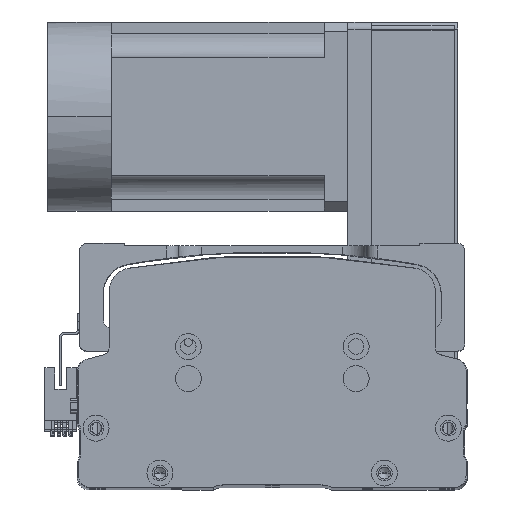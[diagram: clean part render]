
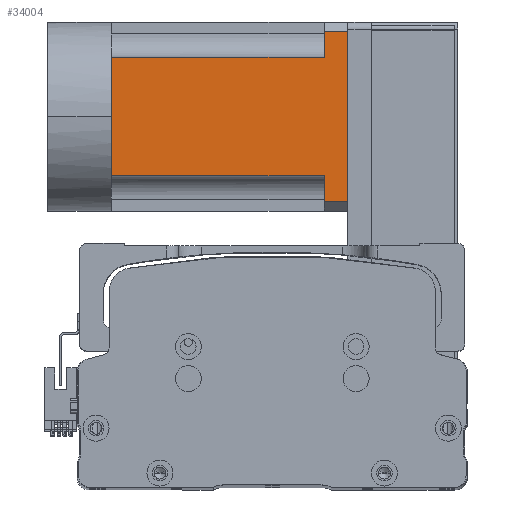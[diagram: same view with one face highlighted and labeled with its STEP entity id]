
A CAD part, top view. The second image highlights one B-rep face of the part: STEP entity #34004.
In plain terms, the highlighted planar face has unit normal (0, 0, 1) as drawn and (0, 0, -1) by its records, which use the part's own axes.
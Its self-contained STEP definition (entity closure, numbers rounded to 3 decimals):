
#206 = VECTOR ( 'NONE', #38847, 1000. ) ;
#1397 = CARTESIAN_POINT ( 'NONE',  ( -25., -27., -40. ) ) ;
#3003 = EDGE_CURVE ( 'NONE', #57980, #45392, #6251, .T. ) ;
#3538 = LINE ( 'NONE', #59423, #38428 ) ;
#4414 = ORIENTED_EDGE ( 'NONE', *, *, #35775, .T. ) ;
#4518 = EDGE_CURVE ( 'NONE', #12688, #52060, #32043, .T. ) ;
#5258 = ORIENTED_EDGE ( 'NONE', *, *, #13453, .F. ) ;
#5966 = VECTOR ( 'NONE', #25059, 1000. ) ;
#6251 = LINE ( 'NONE', #34591, #17341 ) ;
#6672 = CARTESIAN_POINT ( 'NONE',  ( -40., 90., -40. ) ) ;
#7397 = VECTOR ( 'NONE', #25042, 1000. ) ;
#7656 = VECTOR ( 'NONE', #13351, 1000. ) ;
#9502 = PLANE ( 'NONE',  #19207 ) ;
#10346 = DIRECTION ( 'NONE',  ( -1., 0., 0. ) ) ;
#10353 = VERTEX_POINT ( 'NONE', #28504 ) ;
#11016 = CARTESIAN_POINT ( 'NONE',  ( 0., 0., -40. ) ) ;
#12688 = VERTEX_POINT ( 'NONE', #35060 ) ;
#13351 = DIRECTION ( 'NONE',  ( -1., 0., 0. ) ) ;
#13453 = EDGE_CURVE ( 'NONE', #10353, #38441, #23281, .T. ) ;
#13584 = EDGE_CURVE ( 'NONE', #42363, #51325, #38036, .T. ) ;
#14987 = DIRECTION ( 'NONE',  ( 0., -1., 0. ) ) ;
#17341 = VECTOR ( 'NONE', #44109, 1000. ) ;
#18574 = LINE ( 'NONE', #1397, #5966 ) ;
#19040 = DIRECTION ( 'NONE',  ( -1., 0., 0. ) ) ;
#19207 = AXIS2_PLACEMENT_3D ( 'NONE', #37887, #47417, #19040 ) ;
#19485 = VECTOR ( 'NONE', #39799, 1000. ) ;
#19591 = FACE_OUTER_BOUND ( 'NONE', #52196, .T. ) ;
#20829 = ORIENTED_EDGE ( 'NONE', *, *, #59812, .T. ) ;
#21277 = CARTESIAN_POINT ( 'NONE',  ( 25., 0., -40. ) ) ;
#21537 = DIRECTION ( 'NONE',  ( 0., -1., 0. ) ) ;
#23281 = LINE ( 'NONE', #41726, #7656 ) ;
#24463 = CARTESIAN_POINT ( 'NONE',  ( -40., 0., -40. ) ) ;
#24695 = EDGE_CURVE ( 'NONE', #45392, #42363, #3538, .T. ) ;
#25042 = DIRECTION ( 'NONE',  ( 0., 1., 0. ) ) ;
#25059 = DIRECTION ( 'NONE',  ( 0., 1., 0. ) ) ;
#25692 = VECTOR ( 'NONE', #10346, 1000. ) ;
#26711 = ORIENTED_EDGE ( 'NONE', *, *, #24695, .T. ) ;
#28504 = CARTESIAN_POINT ( 'NONE',  ( 36., 100., -40. ) ) ;
#32043 = LINE ( 'NONE', #6672, #19485 ) ;
#34004 = ADVANCED_FACE ( 'NONE', ( #19591 ), #9502, .T. ) ;
#34134 = CARTESIAN_POINT ( 'NONE',  ( -40., 0., -40. ) ) ;
#34591 = CARTESIAN_POINT ( 'NONE',  ( -40., 90., -40. ) ) ;
#35060 = CARTESIAN_POINT ( 'NONE',  ( -25., 90., -40. ) ) ;
#35476 = VERTEX_POINT ( 'NONE', #60722 ) ;
#35775 = EDGE_CURVE ( 'NONE', #35476, #12688, #18574, .T. ) ;
#36114 = EDGE_CURVE ( 'NONE', #52060, #38441, #43720, .T. ) ;
#37887 = CARTESIAN_POINT ( 'NONE',  ( -40., -27., -40. ) ) ;
#38036 = LINE ( 'NONE', #34134, #206 ) ;
#38287 = LINE ( 'NONE', #24463, #25692 ) ;
#38428 = VECTOR ( 'NONE', #21537, 1000. ) ;
#38441 = VERTEX_POINT ( 'NONE', #59541 ) ;
#38847 = DIRECTION ( 'NONE',  ( -1., 0., 0. ) ) ;
#39589 = ORIENTED_EDGE ( 'NONE', *, *, #36114, .T. ) ;
#39799 = DIRECTION ( 'NONE',  ( -1., 0., 0. ) ) ;
#40294 = CARTESIAN_POINT ( 'NONE',  ( 36., 90., -40. ) ) ;
#40592 = EDGE_CURVE ( 'NONE', #10353, #57980, #51235, .T. ) ;
#41591 = VECTOR ( 'NONE', #14987, 1000. ) ;
#41726 = CARTESIAN_POINT ( 'NONE',  ( -40., 100., -40. ) ) ;
#42363 = VERTEX_POINT ( 'NONE', #21277 ) ;
#43720 = LINE ( 'NONE', #48636, #7397 ) ;
#44109 = DIRECTION ( 'NONE',  ( -1., 0., 0. ) ) ;
#44338 = CARTESIAN_POINT ( 'NONE',  ( -36., 90., -40. ) ) ;
#45392 = VERTEX_POINT ( 'NONE', #49745 ) ;
#45756 = ORIENTED_EDGE ( 'NONE', *, *, #3003, .T. ) ;
#47417 = DIRECTION ( 'NONE',  ( 0., 0., -1. ) ) ;
#48158 = CARTESIAN_POINT ( 'NONE',  ( 36., -27., -40. ) ) ;
#48636 = CARTESIAN_POINT ( 'NONE',  ( -36., -27., -40. ) ) ;
#49538 = ORIENTED_EDGE ( 'NONE', *, *, #4518, .T. ) ;
#49745 = CARTESIAN_POINT ( 'NONE',  ( 25., 90., -40. ) ) ;
#51235 = LINE ( 'NONE', #48158, #41591 ) ;
#51325 = VERTEX_POINT ( 'NONE', #11016 ) ;
#52060 = VERTEX_POINT ( 'NONE', #44338 ) ;
#52196 = EDGE_LOOP ( 'NONE', ( #5258, #57875, #45756, #26711, #55144, #20829, #4414, #49538, #39589 ) ) ;
#55144 = ORIENTED_EDGE ( 'NONE', *, *, #13584, .T. ) ;
#57875 = ORIENTED_EDGE ( 'NONE', *, *, #40592, .T. ) ;
#57980 = VERTEX_POINT ( 'NONE', #40294 ) ;
#59423 = CARTESIAN_POINT ( 'NONE',  ( 25., -27., -40. ) ) ;
#59541 = CARTESIAN_POINT ( 'NONE',  ( -36., 100., -40. ) ) ;
#59812 = EDGE_CURVE ( 'NONE', #51325, #35476, #38287, .T. ) ;
#60722 = CARTESIAN_POINT ( 'NONE',  ( -25., 0., -40. ) ) ;
